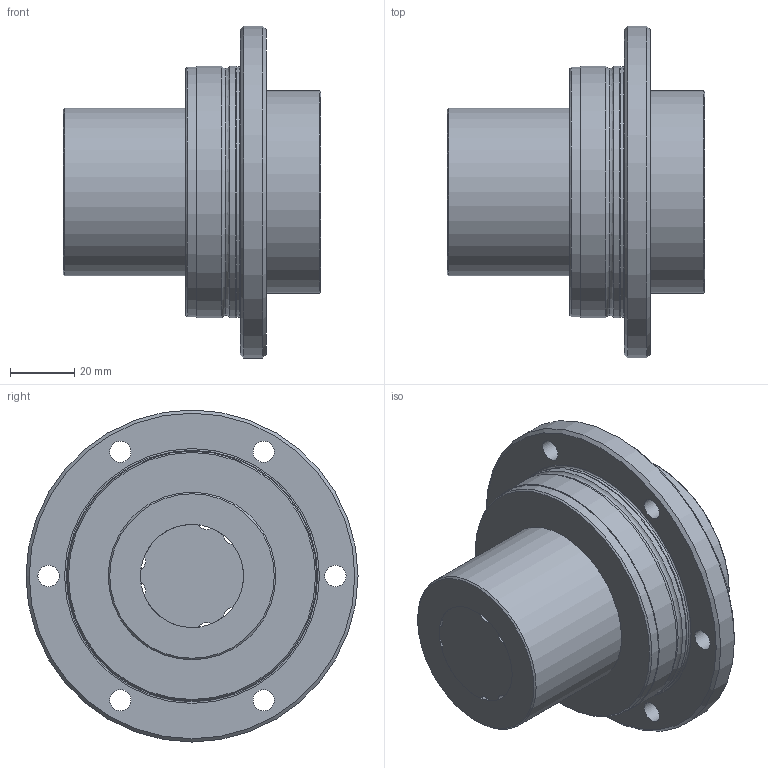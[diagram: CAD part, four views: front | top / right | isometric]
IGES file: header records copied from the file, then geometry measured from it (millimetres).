
Start section: Data from Parasolid IGES Translator 26.0.171, Copyright(c) 2006 Siemens PLM Software. All Rights Reserved.
Global section: file name: LTR32A+80L(0_0).igs; native system: By Siemens PLM Incorporated; preprocessor: XPlus GENERIC/IGES 26.0.171; author: Noname; organization: Noname; date: 20240528.075222; units: millimetre
Bounding box: 80 x 103 x 103 mm (x, y, z)
Surface area: 94402.6 mm2 (no closed solid volume)
Topology: 0 solids, 0 shells, 115 faces, 546 edges, 450 vertices
Faces by surface type: revolution 99, extrusion 16
